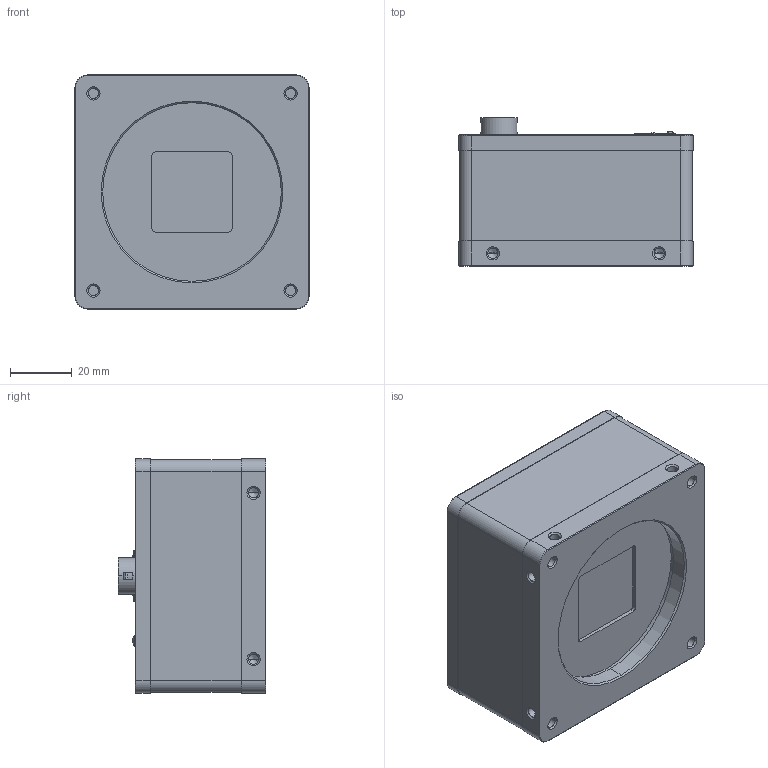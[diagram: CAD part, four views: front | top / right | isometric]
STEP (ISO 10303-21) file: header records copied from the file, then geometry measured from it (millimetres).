
FILE_DESCRIPTION((''),'2;1');
FILE_NAME('DH3-04220-6021_1','2023-11-29T18:43:37',('309376'),(''),'CREO PARAMETRIC BY PTC INC, 2020184','CREO PARAMETRIC BY PTC INC, 2020184','');
FILE_SCHEMA(('CONFIG_CONTROL_DESIGN'));
Length unit declared in the file: millimetre
Products named in the file (1): DH3-04220-6021_1
Bounding box: 76 x 48 x 76 mm (x, y, z)
Volume: 174350.7 mm3; surface area: 48443.3 mm2
Topology: 1 solids, 19 shells, 1185 faces, 3282 edges, 2108 vertices
Faces by surface type: plane 588, cylinder 389, cone 127, bspline 39, torus 28, sphere 14
Entity records: 39197 total; most frequent: CARTESIAN_POINT 8675, ORIENTED_EDGE 6460, DIRECTION 6286, EDGE_CURVE 3230, AXIS2_PLACEMENT_3D 2135, VERTEX_POINT 2108, VECTOR 2016, LINE 2016
